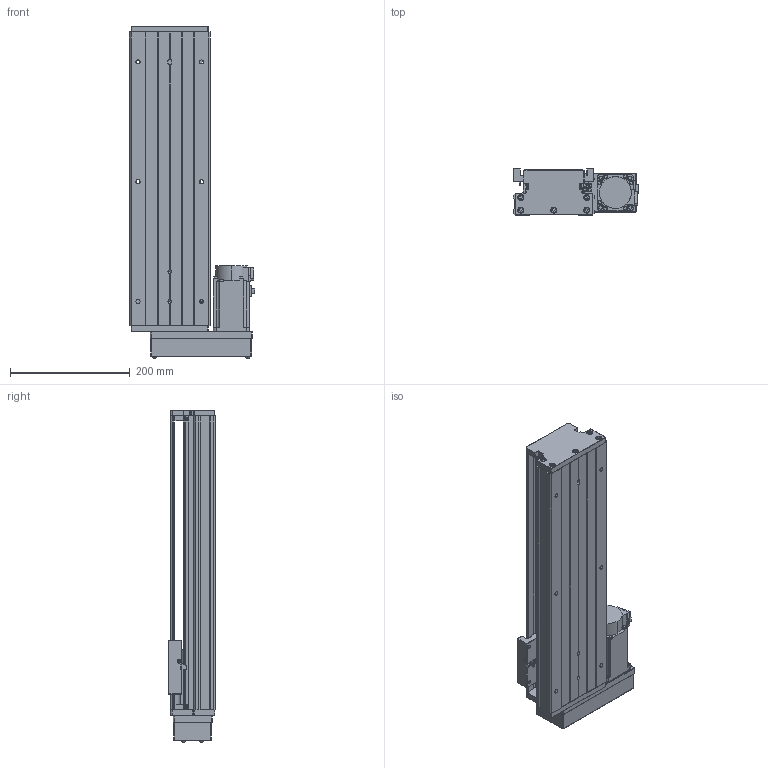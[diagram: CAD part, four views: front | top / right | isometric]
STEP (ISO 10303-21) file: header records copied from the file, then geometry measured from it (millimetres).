
FILE_DESCRIPTION (( 'STEP AP203' ), '1' );
FILE_NAME ('KTH130-350-BR-M40-C4.step', '2023-06-30T04:11:15', ( '微软用户' ), ( '微软中国' ), 'SwSTEP 2.0', 'SolidWorks 2020', '' );
FILE_SCHEMA (( 'CONFIG_CONTROL_DESIGN' ));
Length unit declared in the file: millimetre
Products named in the file (19): GBT 70.2-M4¡Á35_M4¡Á35; GTH14-001_350; CTHA60-016; GTH14-015-2_CTHA86-015-2; KTH130-002_KTH130-002; GBT 70.1-M3℅5; GTH14-033; KTH130-004; GBT77-2000 M3×3; KTH130-350-BR-M40-C4; GBT70.1 M5℅16; KTH130-005; す晦芛蹟隊 M3℅5; GBT 70.2-M3¡Á5_M3¡Á6; GB1155-6X6; GBT 70.3-M3℅8; CTHA60-017; HG-KN43J-S100; EE_SX911P_R
Assembly tree (53 placements, depth 2):
  KTH130-350-BR-M40-C4
    GTH14-001_350
    KTH130-002_KTH130-002
    KTH130-004
    KTH130-005
    GB1155-6X6  x2
    GBT70.1 M5℅16  x10
    GBT 70.2-M3¡Á5_M3¡Á6  x4
    CTHA60-017  x3
    EE_SX911P_R  x3
    CTHA60-016  x2
    GBT 70.1-M3℅5  x6
    GBT77-2000 M3×3  x6
    す晦芛蹟隊 M3℅5  x2
    GBT 70.3-M3℅8  x4
    HG-KN43J-S100
    GBT 70.2-M4¡Á35_M4¡Á35  x4
    GTH14-015-2_CTHA86-015-2
    GTH14-033
Bounding box: 209.3 x 78 x 554.2 mm (x, y, z)
Volume: 3364981.5 mm3; surface area: 584694.4 mm2
Topology: 56 solids, 56 shells, 2203 faces, 5318 edges, 3310 vertices
Faces by surface type: plane 1193, cylinder 596, cone 290, torus 100, sphere 24
Entity records: 39942 total; most frequent: CARTESIAN_POINT 8534, DIRECTION 5919, ORIENTED_EDGE 5836, EDGE_CURVE 2918, AXIS2_PLACEMENT_3D 2026, LINE 1867, VECTOR 1867, VERTEX_POINT 1863
